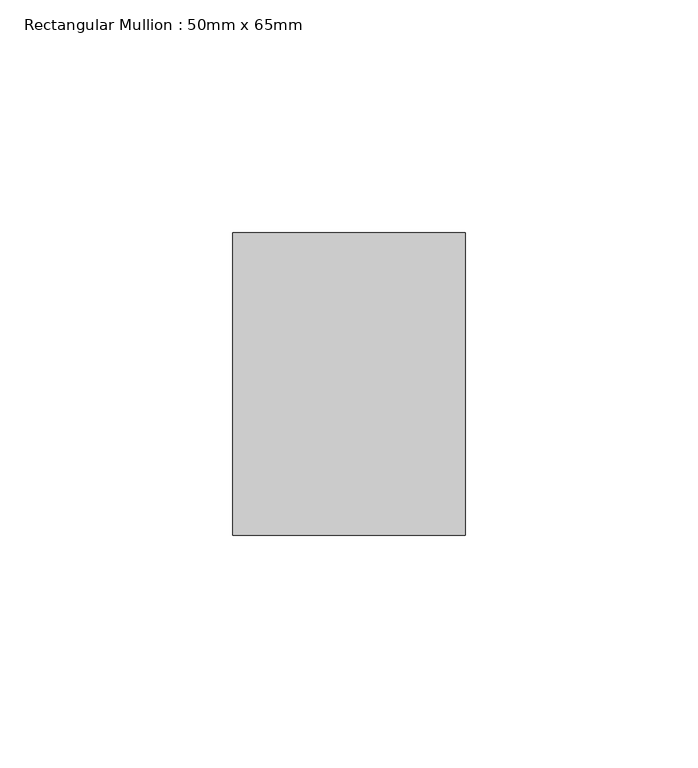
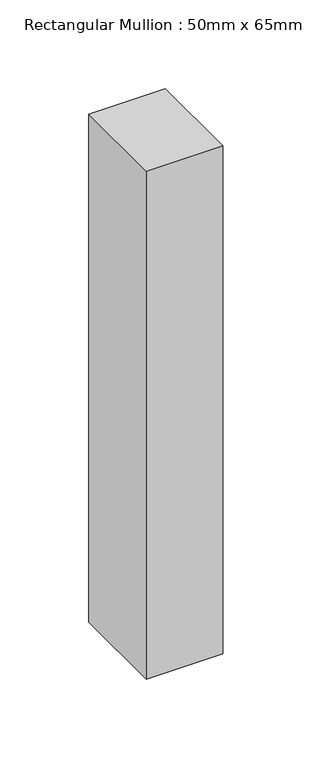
"""IFC4 building model written with IfcOpenShell, lengths in millimetres: member geometry, Rectangular Mullion : 50mm x 65mm."""

from ifc_helpers import new_model, si_unit, frame, origin, place, context, project, spatial, polyline, outline, extrude, source, transform, mapped, element, save


def rectangular_mullion_50mm_x_65mm_1a03be0f(model_context):
    return source(origin(), model_context, "Body", "SweptSolid", [
        extrude(outline(polyline([(25.0, 32.5), (25.0, -32.5), (-25.0, -32.5), (-25.0, 32.5), (25.0, 32.5)])), frame((0.0, 0.0, -350.0), z_axis=(0.0, 0.0, 1.0), x_axis=(1.0, 0.0, 0.0)), (0.0, 0.0, 1.0), 350.0),
    ])


if __name__ == "__main__":
    model = new_model("IFC4")
    model_context = context("Model", 3, world=origin())
    ifc_project = project(units=[si_unit("LENGTHUNIT", "METRE", prefix="MILLI")], contexts=[model_context])
    site = spatial("IfcSite", under=ifc_project)
    building = spatial("IfcBuilding", under=site)
    placement = place(None, origin())
    rectangular_mullion_50mm_x_65mm_shape = rectangular_mullion_50mm_x_65mm_1a03be0f(model_context)
    element("IfcMember", 1, ObjectType="Rectangular Mullion : 50mm x 65mm", at=placement, inside=building, context=model_context, shape_type="MappedRepresentation", body=[
        mapped(rectangular_mullion_50mm_x_65mm_shape, transform((0.0, 0.0, 0.0), x_axis=(1.0, 0.0, 0.0), y_axis=(0.0, 1.0, 0.0), z_axis=(0.0, 0.0, 1.0))),
    ])
    save(model, "model.ifc")
